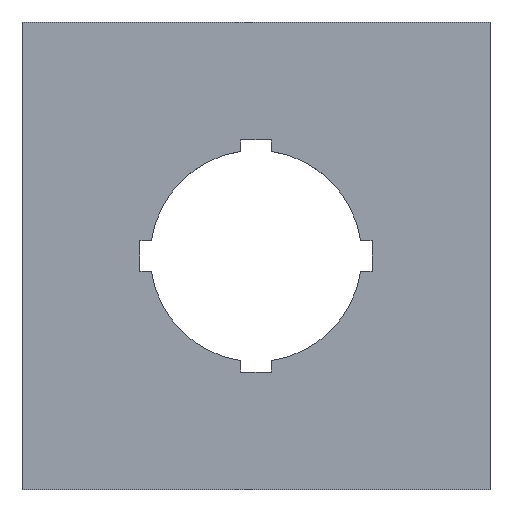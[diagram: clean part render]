
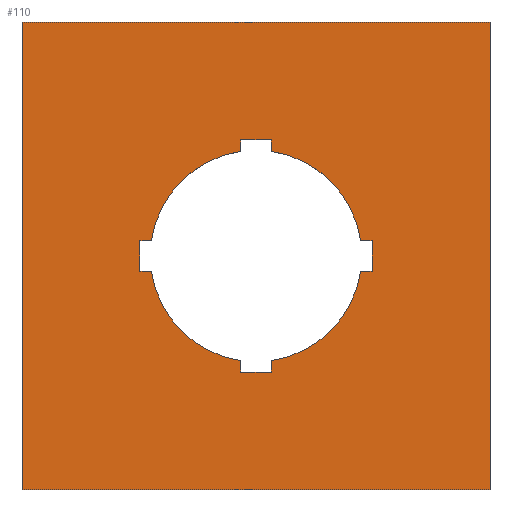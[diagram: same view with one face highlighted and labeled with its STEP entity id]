
A CAD part, top view. The second image highlights one B-rep face of the part: STEP entity #110.
In plain terms, the highlighted planar face has unit normal (0, 0, 1).
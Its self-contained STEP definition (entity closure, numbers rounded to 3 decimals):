
#110 = ADVANCED_FACE( '', ( #187, #188 ), #189, .T. );
#187 = FACE_BOUND( '', #265, .T. );
#188 = FACE_OUTER_BOUND( '', #266, .T. );
#189 = PLANE( '', #267 );
#265 = EDGE_LOOP( '', ( #533, #534, #535, #536, #537, #538, #539, #540, #541, #542, #543, #544, #545, #546, #547, #548 ) );
#266 = EDGE_LOOP( '', ( #549, #550, #551, #552 ) );
#267 = AXIS2_PLACEMENT_3D( '', #553, #554, #555 );
#533 = ORIENTED_EDGE( '', *, *, #607, .T. );
#534 = ORIENTED_EDGE( '', *, *, #610, .T. );
#535 = ORIENTED_EDGE( '', *, *, #612, .T. );
#536 = ORIENTED_EDGE( '', *, *, #614, .T. );
#537 = ORIENTED_EDGE( '', *, *, #616, .T. );
#538 = ORIENTED_EDGE( '', *, *, #618, .T. );
#539 = ORIENTED_EDGE( '', *, *, #620, .T. );
#540 = ORIENTED_EDGE( '', *, *, #622, .T. );
#541 = ORIENTED_EDGE( '', *, *, #624, .T. );
#542 = ORIENTED_EDGE( '', *, *, #637, .T. );
#543 = ORIENTED_EDGE( '', *, *, #635, .T. );
#544 = ORIENTED_EDGE( '', *, *, #633, .T. );
#545 = ORIENTED_EDGE( '', *, *, #631, .T. );
#546 = ORIENTED_EDGE( '', *, *, #629, .T. );
#547 = ORIENTED_EDGE( '', *, *, #627, .T. );
#548 = ORIENTED_EDGE( '', *, *, #625, .T. );
#549 = ORIENTED_EDGE( '', *, *, #645, .T. );
#550 = ORIENTED_EDGE( '', *, *, #639, .T. );
#551 = ORIENTED_EDGE( '', *, *, #642, .T. );
#552 = ORIENTED_EDGE( '', *, *, #644, .T. );
#553 = CARTESIAN_POINT( '', ( 0., 0., 0. ) );
#554 = DIRECTION( '', ( 0., 0., 1. ) );
#555 = DIRECTION( '', ( 1., 0., 0. ) );
#607 = EDGE_CURVE( '', #738, #736, #739, .T. );
#610 = EDGE_CURVE( '', #736, #741, #743, .T. );
#612 = EDGE_CURVE( '', #741, #744, #746, .T. );
#614 = EDGE_CURVE( '', #744, #747, #749, .T. );
#616 = EDGE_CURVE( '', #747, #750, #752, .T. );
#618 = EDGE_CURVE( '', #750, #753, #755, .T. );
#620 = EDGE_CURVE( '', #753, #756, #758, .T. );
#622 = EDGE_CURVE( '', #756, #759, #761, .T. );
#624 = EDGE_CURVE( '', #759, #762, #764, .T. );
#625 = EDGE_CURVE( '', #765, #738, #766, .T. );
#627 = EDGE_CURVE( '', #768, #765, #769, .T. );
#629 = EDGE_CURVE( '', #771, #768, #772, .T. );
#631 = EDGE_CURVE( '', #774, #771, #775, .T. );
#633 = EDGE_CURVE( '', #777, #774, #778, .T. );
#635 = EDGE_CURVE( '', #780, #777, #781, .T. );
#637 = EDGE_CURVE( '', #762, #780, #783, .T. );
#639 = EDGE_CURVE( '', #786, #784, #787, .T. );
#642 = EDGE_CURVE( '', #784, #789, #791, .T. );
#644 = EDGE_CURVE( '', #789, #792, #794, .T. );
#645 = EDGE_CURVE( '', #792, #786, #795, .T. );
#736 = VERTEX_POINT( '', #920 );
#738 = VERTEX_POINT( '', #923 );
#739 = CIRCLE( '', #924, 11.25 );
#741 = VERTEX_POINT( '', #927 );
#743 = LINE( '', #930, #931 );
#744 = VERTEX_POINT( '', #932 );
#746 = LINE( '', #935, #936 );
#747 = VERTEX_POINT( '', #937 );
#749 = LINE( '', #940, #941 );
#750 = VERTEX_POINT( '', #942 );
#752 = CIRCLE( '', #945, 11.25 );
#753 = VERTEX_POINT( '', #946 );
#755 = LINE( '', #949, #950 );
#756 = VERTEX_POINT( '', #951 );
#758 = LINE( '', #954, #955 );
#759 = VERTEX_POINT( '', #956 );
#761 = LINE( '', #959, #960 );
#762 = VERTEX_POINT( '', #961 );
#764 = CIRCLE( '', #964, 11.25 );
#765 = VERTEX_POINT( '', #965 );
#766 = LINE( '', #966, #967 );
#768 = VERTEX_POINT( '', #970 );
#769 = LINE( '', #971, #972 );
#771 = VERTEX_POINT( '', #975 );
#772 = LINE( '', #976, #977 );
#774 = VERTEX_POINT( '', #980 );
#775 = CIRCLE( '', #981, 11.25 );
#777 = VERTEX_POINT( '', #984 );
#778 = LINE( '', #985, #986 );
#780 = VERTEX_POINT( '', #989 );
#781 = LINE( '', #990, #991 );
#783 = LINE( '', #994, #995 );
#784 = VERTEX_POINT( '', #996 );
#786 = VERTEX_POINT( '', #999 );
#787 = LINE( '', #1000, #1001 );
#789 = VERTEX_POINT( '', #1004 );
#791 = LINE( '', #1007, #1008 );
#792 = VERTEX_POINT( '', #1009 );
#794 = LINE( '', #1012, #1013 );
#795 = LINE( '', #1014, #1015 );
#920 = CARTESIAN_POINT( '', ( -11.136, -1.6, 0. ) );
#923 = CARTESIAN_POINT( '', ( -1.6, -11.136, 0. ) );
#924 = AXIS2_PLACEMENT_3D( '', #1099, #1100, #1101 );
#927 = CARTESIAN_POINT( '', ( -12.35, -1.6, 0. ) );
#930 = CARTESIAN_POINT( '', ( -6.175, -1.6, 0. ) );
#931 = VECTOR( '', #1104, 1. );
#932 = CARTESIAN_POINT( '', ( -12.35, 1.6, 0. ) );
#935 = CARTESIAN_POINT( '', ( -12.35, 0.8, 0. ) );
#936 = VECTOR( '', #1106, 1. );
#937 = CARTESIAN_POINT( '', ( -11.136, 1.6, 0. ) );
#940 = CARTESIAN_POINT( '', ( -5.568, 1.6, 0. ) );
#941 = VECTOR( '', #1108, 1. );
#942 = CARTESIAN_POINT( '', ( -1.6, 11.136, 0. ) );
#945 = AXIS2_PLACEMENT_3D( '', #1110, #1111, #1112 );
#946 = CARTESIAN_POINT( '', ( -1.6, 12.35, 0. ) );
#949 = CARTESIAN_POINT( '', ( -1.6, 6.175, 0. ) );
#950 = VECTOR( '', #1114, 1. );
#951 = CARTESIAN_POINT( '', ( 1.6, 12.35, 0. ) );
#954 = CARTESIAN_POINT( '', ( 0.8, 12.35, 0. ) );
#955 = VECTOR( '', #1116, 1. );
#956 = CARTESIAN_POINT( '', ( 1.6, 11.136, 0. ) );
#959 = CARTESIAN_POINT( '', ( 1.6, 5.568, 0. ) );
#960 = VECTOR( '', #1118, 1. );
#961 = CARTESIAN_POINT( '', ( 11.136, 1.6, 0. ) );
#964 = AXIS2_PLACEMENT_3D( '', #1120, #1121, #1122 );
#965 = CARTESIAN_POINT( '', ( -1.6, -12.35, 0. ) );
#966 = CARTESIAN_POINT( '', ( -1.6, -5.568, 0. ) );
#967 = VECTOR( '', #1123, 1. );
#970 = CARTESIAN_POINT( '', ( 1.6, -12.35, 0. ) );
#971 = CARTESIAN_POINT( '', ( -0.8, -12.35, 0. ) );
#972 = VECTOR( '', #1125, 1. );
#975 = CARTESIAN_POINT( '', ( 1.6, -11.136, 0. ) );
#976 = CARTESIAN_POINT( '', ( 1.6, -6.175, 0. ) );
#977 = VECTOR( '', #1127, 1. );
#980 = CARTESIAN_POINT( '', ( 11.136, -1.6, 0. ) );
#981 = AXIS2_PLACEMENT_3D( '', #1129, #1130, #1131 );
#984 = CARTESIAN_POINT( '', ( 12.35, -1.6, 0. ) );
#985 = CARTESIAN_POINT( '', ( 5.568, -1.6, 0. ) );
#986 = VECTOR( '', #1133, 1. );
#989 = CARTESIAN_POINT( '', ( 12.35, 1.6, 0. ) );
#990 = CARTESIAN_POINT( '', ( 12.35, -0.8, 0. ) );
#991 = VECTOR( '', #1135, 1. );
#994 = CARTESIAN_POINT( '', ( 6.175, 1.6, 0. ) );
#995 = VECTOR( '', #1137, 1. );
#996 = CARTESIAN_POINT( '', ( 24.9, 24.9, 0. ) );
#999 = CARTESIAN_POINT( '', ( 24.9, -24.9, 0. ) );
#1000 = CARTESIAN_POINT( '', ( 24.9, -24.9, 0. ) );
#1001 = VECTOR( '', #1139, 1. );
#1004 = CARTESIAN_POINT( '', ( -24.9, 24.9, 0. ) );
#1007 = CARTESIAN_POINT( '', ( 24.9, 24.9, 0. ) );
#1008 = VECTOR( '', #1142, 1. );
#1009 = CARTESIAN_POINT( '', ( -24.9, -24.9, 0. ) );
#1012 = CARTESIAN_POINT( '', ( -24.9, 24.9, 0. ) );
#1013 = VECTOR( '', #1144, 1. );
#1014 = CARTESIAN_POINT( '', ( -24.9, -24.9, 0. ) );
#1015 = VECTOR( '', #1145, 1. );
#1099 = CARTESIAN_POINT( '', ( 0., 0., 0. ) );
#1100 = DIRECTION( '', ( 0., 0., -1. ) );
#1101 = DIRECTION( '', ( -0.99, -0.142, 0. ) );
#1104 = DIRECTION( '', ( -1., 0., 0. ) );
#1106 = DIRECTION( '', ( 0., 1., 0. ) );
#1108 = DIRECTION( '', ( 1., 0., 0. ) );
#1110 = CARTESIAN_POINT( '', ( 0., 0., 0. ) );
#1111 = DIRECTION( '', ( 0., 0., -1. ) );
#1112 = DIRECTION( '', ( -0.142, 0.99, 0. ) );
#1114 = DIRECTION( '', ( 0., 1., 0. ) );
#1116 = DIRECTION( '', ( 1., 0., 0. ) );
#1118 = DIRECTION( '', ( 0., -1., 0. ) );
#1120 = CARTESIAN_POINT( '', ( 0., 0., 0. ) );
#1121 = DIRECTION( '', ( 0., 0., -1. ) );
#1122 = DIRECTION( '', ( 0.99, 0.142, 0. ) );
#1123 = DIRECTION( '', ( 0., 1., 0. ) );
#1125 = DIRECTION( '', ( -1., 0., 0. ) );
#1127 = DIRECTION( '', ( 0., -1., 0. ) );
#1129 = CARTESIAN_POINT( '', ( 0., 0., 0. ) );
#1130 = DIRECTION( '', ( 0., 0., -1. ) );
#1131 = DIRECTION( '', ( 0.142, -0.99, 0. ) );
#1133 = DIRECTION( '', ( -1., 0., 0. ) );
#1135 = DIRECTION( '', ( 0., -1., 0. ) );
#1137 = DIRECTION( '', ( 1., 0., 0. ) );
#1139 = DIRECTION( '', ( 0., 1., 0. ) );
#1142 = DIRECTION( '', ( -1., 0., 0. ) );
#1144 = DIRECTION( '', ( 0., -1., 0. ) );
#1145 = DIRECTION( '', ( 1., 0., 0. ) );
